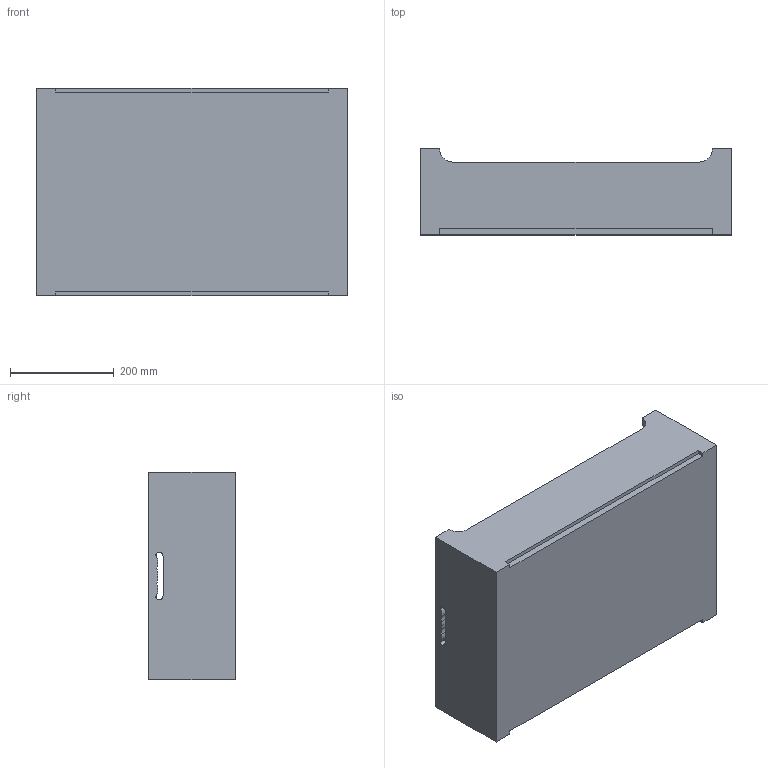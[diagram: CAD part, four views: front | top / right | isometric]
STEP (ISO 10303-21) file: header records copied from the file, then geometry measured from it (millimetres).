
FILE_DESCRIPTION (( 'STEP AP214' ), '1' );
FILE_NAME ('5FV Block Model.STEP', '2013-06-03T14:52:55', ( 'Bryant Conder' ), ( '' ), 'SwSTEP 2.0', 'SolidWorks 2013', '' );
FILE_SCHEMA (( 'AUTOMOTIVE_DESIGN' ));
Length unit declared in the file: inch
Products named in the file (1): 5FV Block Model
Bounding box: 599.95 x 165.61 x 400.05 mm (x, y, z)
Volume: 5924422.7 mm3; surface area: 1059557.8 mm2
Topology: 1 solids, 1 shells, 60 faces, 174 edges, 116 vertices
Faces by surface type: plane 32, cylinder 28
Entity records: 2042 total; most frequent: DIRECTION 352, CARTESIAN_POINT 351, ORIENTED_EDGE 348, EDGE_CURVE 174, LINE 118, VECTOR 118, AXIS2_PLACEMENT_3D 117, VERTEX_POINT 116
